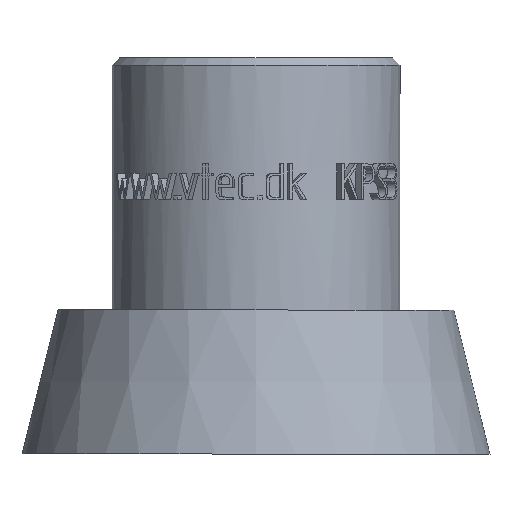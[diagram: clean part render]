
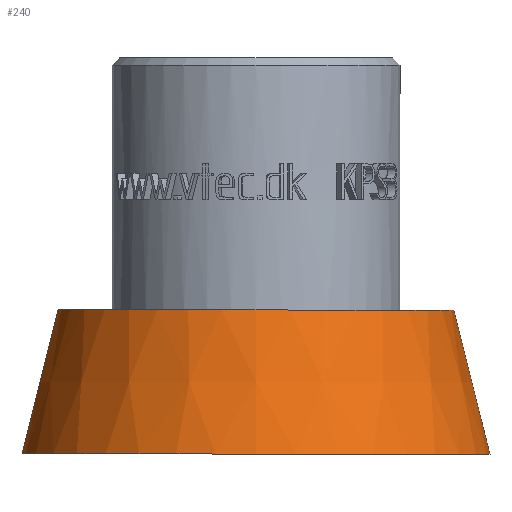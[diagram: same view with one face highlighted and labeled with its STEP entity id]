
A CAD part, front view. The second image highlights one B-rep face of the part: STEP entity #240.
In plain terms, the highlighted conical face has half-angle 14.036 degrees and reference radius 6.5 mm.
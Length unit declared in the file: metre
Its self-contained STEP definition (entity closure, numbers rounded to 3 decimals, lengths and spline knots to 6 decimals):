
#240 = ADVANCED_FACE( '', ( #601, #602 ), #603, .T. );
#601 = FACE_BOUND( '', #3201, .T. );
#602 = FACE_OUTER_BOUND( '', #3202, .T. );
#603 = CONICAL_SURFACE( '', #3203, 0.0065, 0.245 );
#3201 = EDGE_LOOP( '', ( #4336 ) );
#3202 = EDGE_LOOP( '', ( #4337 ) );
#3203 = AXIS2_PLACEMENT_3D( '', #4338, #4339, #4340 );
#4336 = ORIENTED_EDGE( '', *, *, #4601, .F. );
#4337 = ORIENTED_EDGE( '', *, *, #4789, .T. );
#4338 = CARTESIAN_POINT( '', ( 0., 0., -0.0055 ) );
#4339 = DIRECTION( '', ( 0., 0., -1. ) );
#4340 = DIRECTION( '', ( -1., 0., 0. ) );
#4601 = EDGE_CURVE( '', #5211, #5211, #5212, .T. );
#4789 = EDGE_CURVE( '', #5490, #5490, #5491, .T. );
#5211 = VERTEX_POINT( '', #6648 );
#5212 = CIRCLE( '', #6649, 0.0055 );
#5490 = VERTEX_POINT( '', #7581 );
#5491 = CIRCLE( '', #7582, 0.0065 );
#6648 = CARTESIAN_POINT( '', ( 0.0055, 0., -0.0015 ) );
#6649 = AXIS2_PLACEMENT_3D( '', #7819, #7820, #7821 );
#7581 = CARTESIAN_POINT( '', ( 0.0065, 0., -0.0055 ) );
#7582 = AXIS2_PLACEMENT_3D( '', #8014, #8015, #8016 );
#7819 = CARTESIAN_POINT( '', ( 0., 0., -0.0015 ) );
#7820 = DIRECTION( '', ( 0., 0., 1. ) );
#7821 = DIRECTION( '', ( 1., 0., 0. ) );
#8014 = CARTESIAN_POINT( '', ( 0., 0., -0.0055 ) );
#8015 = DIRECTION( '', ( 0., 0., 1. ) );
#8016 = DIRECTION( '', ( 1., 0., 0. ) );
